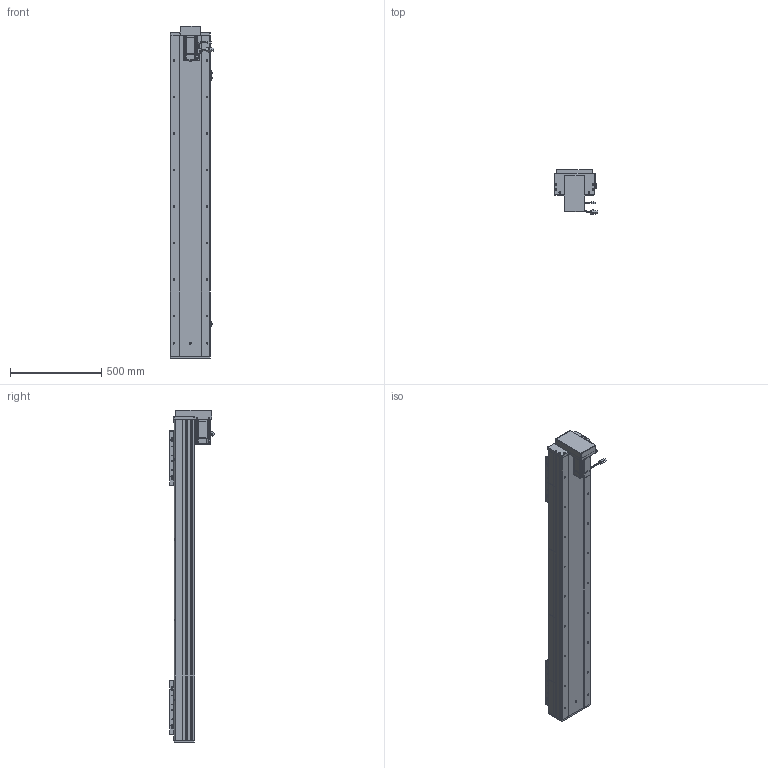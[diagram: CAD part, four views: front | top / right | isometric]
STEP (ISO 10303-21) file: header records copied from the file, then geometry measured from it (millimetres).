
FILE_DESCRIPTION (( 'STEP AP203' ), '1' );
FILE_NAME ('RY220F-L2525-300-BK.SLDASM_1350.step', '2022-07-04T01:21:09', ( '' ), ( '' ), 'SwSTEP 2.0', 'SolidWorks 2016', '' );
FILE_SCHEMA (( 'CONFIG_CONTROL_DESIGN' ));
Length unit declared in the file: millimetre
Products named in the file (15): RY220F-L2525-300-BK.SLDASM_1350; 侐源滅袉蝶; 滅袉蝶18-24; RY220狟殏萇儂欶; 覜茼ん672; RY220F-蛌殏奻裔啣-300_1350; RY220F蛌殏菁釱-300_1350; RY220F臏賑釱25-32佪裝; RY220狟殏萇儂假蚾啣; RY220F-詩湍揤踡輸; RY220F-672覜茼んえ; RY220F-祥凄詩湍-蛌殏-300_1350; RY220F-滅鳥奻裔; 怢湛750W_ECMA-CX0807ES; RY220F綴裔啣
Assembly tree (24 placements, depth 2):
  RY220F-L2525-300-BK.SLDASM_1350
    RY220F蛌殏菁釱-300_1350
    RY220F-蛌殏奻裔啣-300_1350  x2
    怢湛750W_ECMA-CX0807ES
    RY220F臏賑釱25-32佪裝  x2
    RY220F-滅鳥奻裔  x2
    滅袉蝶18-24  x3
    RY220F綴裔啣
    RY220F-祥凄詩湍-蛌殏-300_1350
    RY220F-詩湍揤踡輸  x2
    覜茼ん672  x3
    RY220F-672覜茼んえ  x2
    侐源滅袉蝶  x2
    RY220狟殏萇儂假蚾啣
    RY220狟殏萇儂欶
Bounding box: 237.27 x 247.24 x 1821 mm (x, y, z)
Volume: 16733924.3 mm3; surface area: 4355347.4 mm2
Topology: 25 solids, 25 shells, 2803 faces, 7614 edges, 4703 vertices
Faces by surface type: cylinder 1250, plane 1062, cone 420, bspline 45, sphere 16, torus 10
Entity records: 69581 total; most frequent: CARTESIAN_POINT 18809, ORIENTED_EDGE 10258, DIRECTION 9981, EDGE_CURVE 5129, AXIS2_PLACEMENT_3D 3542, VERTEX_POINT 3319, VECTOR 2897, LINE 2897
